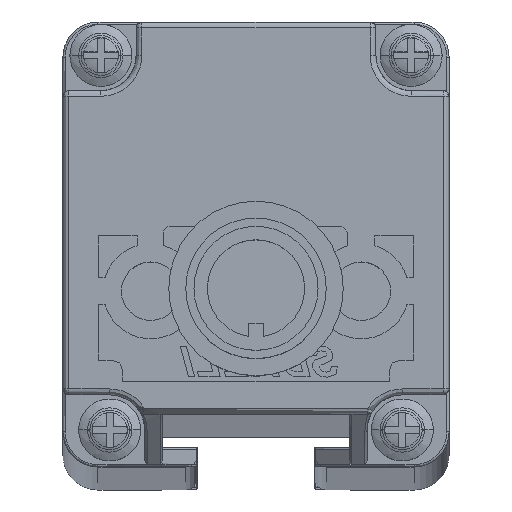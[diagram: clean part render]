
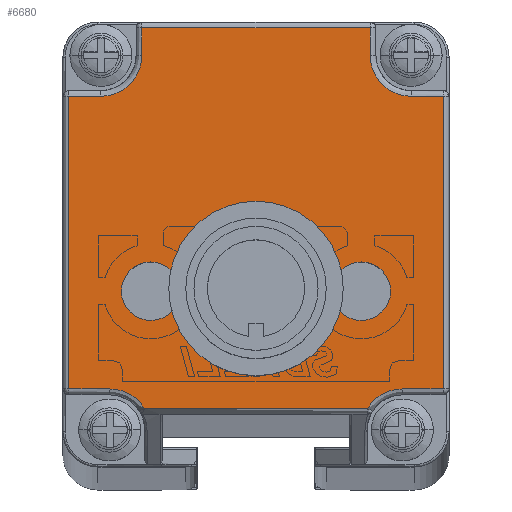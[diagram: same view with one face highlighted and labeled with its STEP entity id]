
A CAD part, top view. The second image highlights one B-rep face of the part: STEP entity #6680.
In plain terms, the highlighted planar face has unit normal (0, 0, 1).
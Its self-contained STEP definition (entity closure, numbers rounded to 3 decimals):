
#2629=CARTESIAN_POINT('',(0.65,-8.054,
1005.276));
#2630=DIRECTION('',(0.,0.,1.));
#2631=DIRECTION('',(1.,0.,0.));
#2632=AXIS2_PLACEMENT_3D('',#2629,#2630,#2631);
#2634=CARTESIAN_POINT('',(0.65,-8.054,
1005.276));
#2635=DIRECTION('',(0.,0.,1.));
#2636=DIRECTION('',(-1.,0.,0.));
#2637=AXIS2_PLACEMENT_3D('',#2634,#2635,#2636);
#2639=CARTESIAN_POINT('',(9.65,-8.055,1005.276));
#2640=DIRECTION('',(0.,0.,1.));
#2641=DIRECTION('',(1.,-0.007,0.));
#2642=AXIS2_PLACEMENT_3D('',#2639,#2640,#2641);
#2644=CARTESIAN_POINT('',(9.65,-8.055,1005.276));
#2645=DIRECTION('',(0.,0.,1.));
#2646=DIRECTION('',(-1.,0.007,0.));
#2647=AXIS2_PLACEMENT_3D('',#2644,#2645,#2646);
#2649=CARTESIAN_POINT('',(-8.35,-8.054,
1005.276));
#2650=DIRECTION('',(0.,0.,1.));
#2651=DIRECTION('',(1.,0.007,0.));
#2652=AXIS2_PLACEMENT_3D('',#2649,#2650,#2651);
#2654=CARTESIAN_POINT('',(-8.35,-8.054,
1005.276));
#2655=DIRECTION('',(0.,0.,1.));
#2656=DIRECTION('',(-1.,-0.007,0.));
#2657=AXIS2_PLACEMENT_3D('',#2654,#2655,#2656);
#2659=CARTESIAN_POINT('',(-11.85,-19.904,
1005.276));
#2660=DIRECTION('',(0.,0.,1.));
#2661=DIRECTION('',(0.849,0.528,0.));
#2662=AXIS2_PLACEMENT_3D('',#2659,#2660,#2661);
#2664=CARTESIAN_POINT('',(-12.6,12.094,1005.276));
#2665=DIRECTION('',(0.,0.,1.));
#2666=DIRECTION('',(0.,-1.,0.));
#2667=AXIS2_PLACEMENT_3D('',#2664,#2665,#2666);
#2669=CARTESIAN_POINT('',(13.9,12.094,1005.276));
#2670=DIRECTION('',(0.,0.,1.));
#2671=DIRECTION('',(-1.,0.,0.));
#2672=AXIS2_PLACEMENT_3D('',#2669,#2670,#2671);
#2674=CARTESIAN_POINT('',(13.15,-19.904,1005.276));
#2675=DIRECTION('',(0.,0.,1.));
#2676=DIRECTION('',(0.,1.,0.));
#2677=AXIS2_PLACEMENT_3D('',#2674,#2675,#2676);
#4235=DIRECTION('',(1.,0.,0.));
#4236=VECTOR('',#4235,19.056);
#4237=CARTESIAN_POINT('',(-8.878,-18.056,
1005.276));
#4238=LINE('',#4237,#4236);
#4515=DIRECTION('',(1.,0.,0.));
#4516=VECTOR('',#4515,3.5);
#4517=CARTESIAN_POINT('',(13.15,-16.404,1005.276));
#4518=LINE('',#4517,#4516);
#5172=DIRECTION('',(0.,1.,0.));
#5173=VECTOR('',#5172,2.35);
#5174=CARTESIAN_POINT('',(10.4,12.094,1005.276));
#5175=LINE('',#5174,#5173);
#5195=DIRECTION('',(-1.,0.,0.));
#5196=VECTOR('',#5195,19.5);
#5197=CARTESIAN_POINT('',(10.4,14.444,1005.276));
#5198=LINE('',#5197,#5196);
#5219=DIRECTION('',(0.,-1.,0.));
#5220=VECTOR('',#5219,2.35);
#5221=CARTESIAN_POINT('',(-9.1,14.444,1005.276));
#5222=LINE('',#5221,#5220);
#5246=DIRECTION('',(-1.,0.,0.));
#5247=VECTOR('',#5246,2.75);
#5248=CARTESIAN_POINT('',(-12.6,8.594,1005.276));
#5249=LINE('',#5248,#5247);
#5277=DIRECTION('',(0.,-1.,0.));
#5278=VECTOR('',#5277,24.998);
#5279=CARTESIAN_POINT('',(-15.35,8.594,1005.276));
#5280=LINE('',#5279,#5278);
#5301=DIRECTION('',(1.,0.,0.));
#5302=VECTOR('',#5301,3.5);
#5303=CARTESIAN_POINT('',(-15.35,-16.404,
1005.276));
#5304=LINE('',#5303,#5302);
#5365=DIRECTION('',(-1.,0.,0.));
#5366=VECTOR('',#5365,2.75);
#5367=CARTESIAN_POINT('',(16.65,8.594,1005.276));
#5368=LINE('',#5367,#5366);
#5424=DIRECTION('',(0.,1.,0.));
#5425=VECTOR('',#5424,24.998);
#5426=CARTESIAN_POINT('',(16.65,-16.404,1005.276));
#5427=LINE('',#5426,#5425);
#5771=CARTESIAN_POINT('',(12.15,-8.072,1005.276));
#5772=VERTEX_POINT('',#5771);
#5773=CARTESIAN_POINT('',(7.15,-8.039,1005.276));
#5774=VERTEX_POINT('',#5773);
#5775=CARTESIAN_POINT('',(-8.878,-18.056,
1005.276));
#5776=CARTESIAN_POINT('',(-11.85,-16.404,
1005.276));
#5777=VERTEX_POINT('',#5775);
#5778=VERTEX_POINT('',#5776);
#5779=CARTESIAN_POINT('',(-15.35,-16.404,
1005.276));
#5780=VERTEX_POINT('',#5779);
#5781=CARTESIAN_POINT('',(-15.35,8.594,1005.276));
#5782=VERTEX_POINT('',#5781);
#5783=CARTESIAN_POINT('',(-12.6,8.594,1005.276));
#5784=VERTEX_POINT('',#5783);
#5785=CARTESIAN_POINT('',(-9.1,12.094,1005.276));
#5786=VERTEX_POINT('',#5785);
#5787=CARTESIAN_POINT('',(-9.1,14.444,1005.276));
#5788=VERTEX_POINT('',#5787);
#5789=CARTESIAN_POINT('',(10.4,14.444,1005.276));
#5790=VERTEX_POINT('',#5789);
#5791=CARTESIAN_POINT('',(10.4,12.094,1005.276));
#5792=VERTEX_POINT('',#5791);
#5793=CARTESIAN_POINT('',(13.9,8.594,1005.276));
#5794=VERTEX_POINT('',#5793);
#5795=CARTESIAN_POINT('',(16.65,8.594,1005.276));
#5796=VERTEX_POINT('',#5795);
#5797=CARTESIAN_POINT('',(16.65,-16.404,1005.276));
#5798=VERTEX_POINT('',#5797);
#5799=CARTESIAN_POINT('',(13.15,-16.404,1005.276));
#5800=VERTEX_POINT('',#5799);
#5801=CARTESIAN_POINT('',(10.178,-18.056,1005.276));
#5802=VERTEX_POINT('',#5801);
#5803=CARTESIAN_POINT('',(-5.85,-8.037,
1005.276));
#5804=CARTESIAN_POINT('',(-10.85,-8.07,
1005.276));
#5805=VERTEX_POINT('',#5803);
#5806=VERTEX_POINT('',#5804);
#5807=CARTESIAN_POINT('',(3.65,-8.054,1005.276));
#5808=CARTESIAN_POINT('',(-2.35,-8.054,
1005.276));
#5809=VERTEX_POINT('',#5807);
#5810=VERTEX_POINT('',#5808);
#6629=CARTESIAN_POINT('',(0.65,0.944,
1005.276));
#6630=DIRECTION('',(0.,0.,1.));
#6631=DIRECTION('',(1.,0.,0.));
#6632=AXIS2_PLACEMENT_3D('',#6629,#6630,#6631);
#6633=PLANE('',#6632);
#6635=ORIENTED_EDGE('',*,*,#6634,.T.);
#6637=ORIENTED_EDGE('',*,*,#6636,.F.);
#6639=ORIENTED_EDGE('',*,*,#6638,.F.);
#6641=ORIENTED_EDGE('',*,*,#6640,.F.);
#6643=ORIENTED_EDGE('',*,*,#6642,.T.);
#6645=ORIENTED_EDGE('',*,*,#6644,.F.);
#6647=ORIENTED_EDGE('',*,*,#6646,.F.);
#6649=ORIENTED_EDGE('',*,*,#6648,.F.);
#6651=ORIENTED_EDGE('',*,*,#6650,.T.);
#6653=ORIENTED_EDGE('',*,*,#6652,.F.);
#6655=ORIENTED_EDGE('',*,*,#6654,.F.);
#6657=ORIENTED_EDGE('',*,*,#6656,.F.);
#6659=ORIENTED_EDGE('',*,*,#6658,.T.);
#6661=ORIENTED_EDGE('',*,*,#6660,.F.);
#6662=EDGE_LOOP('',(#6635,#6637,#6639,#6641,#6643,#6645,#6647,#6649,#6651,#6653,
#6655,#6657,#6659,#6661));
#6663=FACE_OUTER_BOUND('',#6662,.F.);
#6664=ORIENTED_EDGE('',*,*,#6616,.T.);
#6665=ORIENTED_EDGE('',*,*,#6577,.T.);
#6666=EDGE_LOOP('',(#6664,#6665));
#6667=FACE_BOUND('',#6666,.F.);
#6669=ORIENTED_EDGE('',*,*,#6668,.T.);
#6671=ORIENTED_EDGE('',*,*,#6670,.T.);
#6672=EDGE_LOOP('',(#6669,#6671));
#6673=FACE_BOUND('',#6672,.F.);
#6675=ORIENTED_EDGE('',*,*,#6674,.T.);
#6677=ORIENTED_EDGE('',*,*,#6676,.T.);
#6678=EDGE_LOOP('',(#6675,#6677));
#6679=FACE_BOUND('',#6678,.F.);
#2633=CIRCLE('',#2632,3.);
#2638=CIRCLE('',#2637,3.);
#2643=CIRCLE('',#2642,2.5);
#2648=CIRCLE('',#2647,2.5);
#2653=CIRCLE('',#2652,2.5);
#2658=CIRCLE('',#2657,2.5);
#2663=CIRCLE('',#2662,3.5);
#2668=CIRCLE('',#2667,3.5);
#2673=CIRCLE('',#2672,3.5);
#2678=CIRCLE('',#2677,3.5);
#6577=EDGE_CURVE('',#5774,#5772,#2648,.T.);
#6616=EDGE_CURVE('',#5772,#5774,#2643,.T.);
#6634=EDGE_CURVE('',#5777,#5778,#2663,.T.);
#6636=EDGE_CURVE('',#5780,#5778,#5304,.T.);
#6638=EDGE_CURVE('',#5782,#5780,#5280,.T.);
#6640=EDGE_CURVE('',#5784,#5782,#5249,.T.);
#6642=EDGE_CURVE('',#5784,#5786,#2668,.T.);
#6644=EDGE_CURVE('',#5788,#5786,#5222,.T.);
#6646=EDGE_CURVE('',#5790,#5788,#5198,.T.);
#6648=EDGE_CURVE('',#5792,#5790,#5175,.T.);
#6650=EDGE_CURVE('',#5792,#5794,#2673,.T.);
#6652=EDGE_CURVE('',#5796,#5794,#5368,.T.);
#6654=EDGE_CURVE('',#5798,#5796,#5427,.T.);
#6656=EDGE_CURVE('',#5800,#5798,#4518,.T.);
#6658=EDGE_CURVE('',#5800,#5802,#2678,.T.);
#6660=EDGE_CURVE('',#5777,#5802,#4238,.T.);
#6668=EDGE_CURVE('',#5805,#5806,#2653,.T.);
#6670=EDGE_CURVE('',#5806,#5805,#2658,.T.);
#6674=EDGE_CURVE('',#5809,#5810,#2633,.T.);
#6676=EDGE_CURVE('',#5810,#5809,#2638,.T.);
#6680=ADVANCED_FACE('',(#6663,#6667,#6673,#6679),#6633,.T.);
